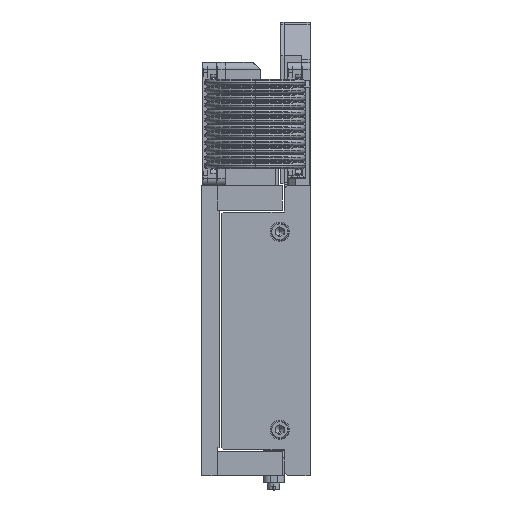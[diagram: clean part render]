
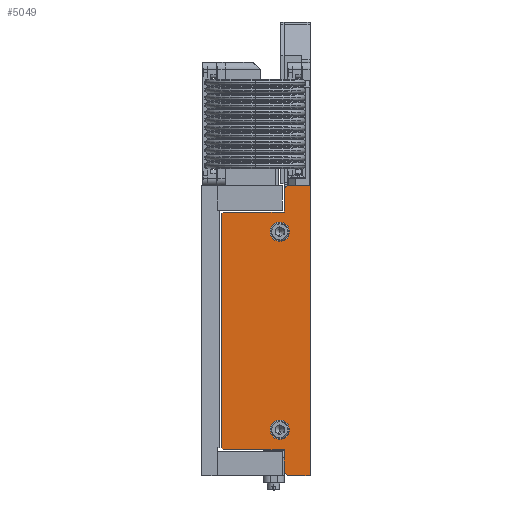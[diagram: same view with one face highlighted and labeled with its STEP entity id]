
A CAD part, left-side view. The second image highlights one B-rep face of the part: STEP entity #5049.
In plain terms, the highlighted planar face has unit normal (-1, 0, 0).
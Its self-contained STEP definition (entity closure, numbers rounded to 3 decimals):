
#299 = DIRECTION ( 'NONE',  ( 0., 0., -1. ) ) ;
#766 = LINE ( 'NONE', #94896, #118247 ) ;
#1488 = VECTOR ( 'NONE', #56416, 1000. ) ;
#1670 = EDGE_CURVE ( 'NONE', #108252, #45996, #61279, .T. ) ;
#1771 = VECTOR ( 'NONE', #63358, 1000. ) ;
#3402 = VECTOR ( 'NONE', #101402, 1000. ) ;
#4894 = ORIENTED_EDGE ( 'NONE', *, *, #71965, .T. ) ;
#5049 = ADVANCED_FACE ( 'NONE', ( #89238, #22443, #105235 ), #35740, .F. ) ;
#8096 = DIRECTION ( 'NONE',  ( 0., 0., 1. ) ) ;
#8920 = DIRECTION ( 'NONE',  ( 0., 0., -1. ) ) ;
#9725 = CARTESIAN_POINT ( 'NONE',  ( -315., 49.5, 67.5 ) ) ;
#12907 = CARTESIAN_POINT ( 'NONE',  ( -315., 50.5, -66.5 ) ) ;
#14872 = VECTOR ( 'NONE', #72700, 1000. ) ;
#15196 = EDGE_LOOP ( 'NONE', ( #86805, #114935 ) ) ;
#15372 = CIRCLE ( 'NONE', #110967, 5.5 ) ;
#15894 = ORIENTED_EDGE ( 'NONE', *, *, #58960, .T. ) ;
#16391 = EDGE_LOOP ( 'NONE', ( #71444, #108929, #109930, #72265, #54770, #15894, #4894, #45861, #118306, #45923, #61074, #43993 ) ) ;
#16998 = CARTESIAN_POINT ( 'NONE',  ( -315., 17.5, 50.75 ) ) ;
#19433 = DIRECTION ( 'NONE',  ( 0., 0., -1. ) ) ;
#21391 = DIRECTION ( 'NONE',  ( -1., 0., 0. ) ) ;
#22443 = FACE_BOUND ( 'NONE', #105220, .T. ) ;
#22463 = EDGE_CURVE ( 'NONE', #89186, #41085, #66572, .T. ) ;
#22562 = AXIS2_PLACEMENT_3D ( 'NONE', #50162, #21391, #95632 ) ;
#23379 = VECTOR ( 'NONE', #107022, 1000. ) ;
#23944 = VECTOR ( 'NONE', #35925, 1000. ) ;
#26318 = CARTESIAN_POINT ( 'NONE',  ( -315., 49.5, -67.5 ) ) ;
#26832 = CARTESIAN_POINT ( 'NONE',  ( -315., 0.25, -82.5 ) ) ;
#29361 = LINE ( 'NONE', #26832, #1771 ) ;
#29865 = VERTEX_POINT ( 'NONE', #65324 ) ;
#30558 = CARTESIAN_POINT ( 'NONE',  ( -315., 49.5, 67.5 ) ) ;
#30671 = VERTEX_POINT ( 'NONE', #64893 ) ;
#32767 = CARTESIAN_POINT ( 'NONE',  ( -315., 0.25, 82.5 ) ) ;
#33284 = EDGE_CURVE ( 'NONE', #82186, #38795, #113597, .T. ) ;
#33763 = CARTESIAN_POINT ( 'NONE',  ( -315., 13.05, -82.5 ) ) ;
#34713 = CARTESIAN_POINT ( 'NONE',  ( -315., 0.25, -82.5 ) ) ;
#35331 = VERTEX_POINT ( 'NONE', #100894 ) ;
#35740 = PLANE ( 'NONE',  #82831 ) ;
#35925 = DIRECTION ( 'NONE',  ( 0., 0., -1. ) ) ;
#37394 = VERTEX_POINT ( 'NONE', #12907 ) ;
#38795 = VERTEX_POINT ( 'NONE', #70568 ) ;
#39410 = CARTESIAN_POINT ( 'NONE',  ( -315., 0.25, 82.5 ) ) ;
#41085 = VERTEX_POINT ( 'NONE', #33763 ) ;
#41283 = CARTESIAN_POINT ( 'NONE',  ( -315., 17.5, 56.25 ) ) ;
#43966 = VERTEX_POINT ( 'NONE', #16998 ) ;
#43993 = ORIENTED_EDGE ( 'NONE', *, *, #92375, .T. ) ;
#45861 = ORIENTED_EDGE ( 'NONE', *, *, #112355, .T. ) ;
#45923 = ORIENTED_EDGE ( 'NONE', *, *, #97131, .T. ) ;
#45996 = VERTEX_POINT ( 'NONE', #58372 ) ;
#48121 = CARTESIAN_POINT ( 'NONE',  ( -315., 15., -80.55 ) ) ;
#48174 = CARTESIAN_POINT ( 'NONE',  ( -315., 17.5, -56.25 ) ) ;
#48626 = DIRECTION ( 'NONE',  ( 0., 0., 1. ) ) ;
#49509 = AXIS2_PLACEMENT_3D ( 'NONE', #41283, #78209, #48626 ) ;
#50162 = CARTESIAN_POINT ( 'NONE',  ( -315., 17.5, 56.25 ) ) ;
#54645 = EDGE_CURVE ( 'NONE', #29865, #35331, #58637, .T. ) ;
#54770 = ORIENTED_EDGE ( 'NONE', *, *, #111970, .T. ) ;
#55519 = VERTEX_POINT ( 'NONE', #69583 ) ;
#56416 = DIRECTION ( 'NONE',  ( 0., -1., 0. ) ) ;
#57269 = VERTEX_POINT ( 'NONE', #30558 ) ;
#57894 = DIRECTION ( 'NONE',  ( 0., 0., 1. ) ) ;
#58372 = CARTESIAN_POINT ( 'NONE',  ( -315., 17.5, -50.75 ) ) ;
#58637 = LINE ( 'NONE', #93741, #1488 ) ;
#58960 = EDGE_CURVE ( 'NONE', #57269, #103175, #77987, .T. ) ;
#61074 = ORIENTED_EDGE ( 'NONE', *, *, #22463, .T. ) ;
#61272 = CARTESIAN_POINT ( 'NONE',  ( -315., 17.5, -61.75 ) ) ;
#61279 = CIRCLE ( 'NONE', #96542, 5.5 ) ;
#62591 = CIRCLE ( 'NONE', #22562, 5.5 ) ;
#63358 = DIRECTION ( 'NONE',  ( 0., -1., 0. ) ) ;
#63378 = CARTESIAN_POINT ( 'NONE',  ( -315., 13.05, 82.5 ) ) ;
#63754 = DIRECTION ( 'NONE',  ( -1., 0., 0. ) ) ;
#64563 = LINE ( 'NONE', #89955, #83371 ) ;
#64832 = VERTEX_POINT ( 'NONE', #85459 ) ;
#64893 = CARTESIAN_POINT ( 'NONE',  ( -315., 15., 80.55 ) ) ;
#65324 = CARTESIAN_POINT ( 'NONE',  ( -315., 49.5, -67.5 ) ) ;
#65972 = VECTOR ( 'NONE', #111981, 1000. ) ;
#66572 = LINE ( 'NONE', #79455, #88331 ) ;
#69583 = CARTESIAN_POINT ( 'NONE',  ( -315., 17.5, 61.75 ) ) ;
#69729 = DIRECTION ( 'NONE',  ( 0., -0.707, -0.707 ) ) ;
#69818 = LINE ( 'NONE', #32767, #23379 ) ;
#70568 = CARTESIAN_POINT ( 'NONE',  ( -315., 13.05, 82.5 ) ) ;
#70918 = EDGE_CURVE ( 'NONE', #45996, #108252, #15372, .T. ) ;
#71444 = ORIENTED_EDGE ( 'NONE', *, *, #83502, .T. ) ;
#71591 = LINE ( 'NONE', #26318, #3402 ) ;
#71965 = EDGE_CURVE ( 'NONE', #103175, #37394, #766, .T. ) ;
#72265 = ORIENTED_EDGE ( 'NONE', *, *, #119635, .T. ) ;
#72700 = DIRECTION ( 'NONE',  ( 0., 1., 0. ) ) ;
#73209 = ORIENTED_EDGE ( 'NONE', *, *, #115176, .F. ) ;
#73467 = CARTESIAN_POINT ( 'NONE',  ( -315., 0., 0. ) ) ;
#73895 = VERTEX_POINT ( 'NONE', #34713 ) ;
#74426 = CARTESIAN_POINT ( 'NONE',  ( -315., 50.5, 66.5 ) ) ;
#75590 = CARTESIAN_POINT ( 'NONE',  ( -315., 50.5, 66.5 ) ) ;
#77987 = LINE ( 'NONE', #74426, #82370 ) ;
#78209 = DIRECTION ( 'NONE',  ( -1., 0., 0. ) ) ;
#78539 = LINE ( 'NONE', #92853, #94489 ) ;
#79455 = CARTESIAN_POINT ( 'NONE',  ( -315., 13.05, -82.5 ) ) ;
#82186 = VERTEX_POINT ( 'NONE', #39410 ) ;
#82370 = VECTOR ( 'NONE', #102830, 1000. ) ;
#82831 = AXIS2_PLACEMENT_3D ( 'NONE', #73467, #100673, #8920 ) ;
#83371 = VECTOR ( 'NONE', #299, 1000. ) ;
#83502 = EDGE_CURVE ( 'NONE', #73895, #82186, #69818, .T. ) ;
#85459 = CARTESIAN_POINT ( 'NONE',  ( -315., 15., 67.5 ) ) ;
#86805 = ORIENTED_EDGE ( 'NONE', *, *, #70918, .F. ) ;
#87576 = CIRCLE ( 'NONE', #49509, 5.5 ) ;
#88331 = VECTOR ( 'NONE', #69729, 1000. ) ;
#89186 = VERTEX_POINT ( 'NONE', #48121 ) ;
#89238 = FACE_BOUND ( 'NONE', #15196, .T. ) ;
#89955 = CARTESIAN_POINT ( 'NONE',  ( -315., 15., -80.55 ) ) ;
#91506 = CARTESIAN_POINT ( 'NONE',  ( -315., 15., 67.5 ) ) ;
#91727 = EDGE_CURVE ( 'NONE', #55519, #43966, #87576, .T. ) ;
#92375 = EDGE_CURVE ( 'NONE', #41085, #73895, #29361, .T. ) ;
#92853 = CARTESIAN_POINT ( 'NONE',  ( -315., 15., 80.55 ) ) ;
#93741 = CARTESIAN_POINT ( 'NONE',  ( -315., 15., -67.5 ) ) ;
#94489 = VECTOR ( 'NONE', #102980, 1000. ) ;
#94896 = CARTESIAN_POINT ( 'NONE',  ( -315., 50.5, -66.5 ) ) ;
#95632 = DIRECTION ( 'NONE',  ( 0., 0., 1. ) ) ;
#96542 = AXIS2_PLACEMENT_3D ( 'NONE', #119296, #63754, #8096 ) ;
#97131 = EDGE_CURVE ( 'NONE', #35331, #89186, #64563, .T. ) ;
#98037 = LINE ( 'NONE', #91506, #23944 ) ;
#99301 = LINE ( 'NONE', #9725, #65972 ) ;
#99315 = EDGE_CURVE ( 'NONE', #38795, #30671, #78539, .T. ) ;
#100673 = DIRECTION ( 'NONE',  ( 1., 0., 0. ) ) ;
#100894 = CARTESIAN_POINT ( 'NONE',  ( -315., 15., -67.5 ) ) ;
#101402 = DIRECTION ( 'NONE',  ( 0., -0.707, -0.707 ) ) ;
#102830 = DIRECTION ( 'NONE',  ( 0., 0.707, -0.707 ) ) ;
#102980 = DIRECTION ( 'NONE',  ( 0., 0.707, -0.707 ) ) ;
#103175 = VERTEX_POINT ( 'NONE', #75590 ) ;
#105220 = EDGE_LOOP ( 'NONE', ( #114523, #73209 ) ) ;
#105235 = FACE_OUTER_BOUND ( 'NONE', #16391, .T. ) ;
#107022 = DIRECTION ( 'NONE',  ( 0., 0., 1. ) ) ;
#108252 = VERTEX_POINT ( 'NONE', #61272 ) ;
#108929 = ORIENTED_EDGE ( 'NONE', *, *, #33284, .T. ) ;
#109930 = ORIENTED_EDGE ( 'NONE', *, *, #99315, .T. ) ;
#110967 = AXIS2_PLACEMENT_3D ( 'NONE', #48174, #112606, #57894 ) ;
#111970 = EDGE_CURVE ( 'NONE', #64832, #57269, #99301, .T. ) ;
#111981 = DIRECTION ( 'NONE',  ( 0., 1., 0. ) ) ;
#112355 = EDGE_CURVE ( 'NONE', #37394, #29865, #71591, .T. ) ;
#112606 = DIRECTION ( 'NONE',  ( -1., 0., 0. ) ) ;
#113597 = LINE ( 'NONE', #63378, #14872 ) ;
#114523 = ORIENTED_EDGE ( 'NONE', *, *, #91727, .F. ) ;
#114935 = ORIENTED_EDGE ( 'NONE', *, *, #1670, .F. ) ;
#115176 = EDGE_CURVE ( 'NONE', #43966, #55519, #62591, .T. ) ;
#118247 = VECTOR ( 'NONE', #19433, 1000. ) ;
#118306 = ORIENTED_EDGE ( 'NONE', *, *, #54645, .T. ) ;
#119296 = CARTESIAN_POINT ( 'NONE',  ( -315., 17.5, -56.25 ) ) ;
#119635 = EDGE_CURVE ( 'NONE', #30671, #64832, #98037, .T. ) ;
